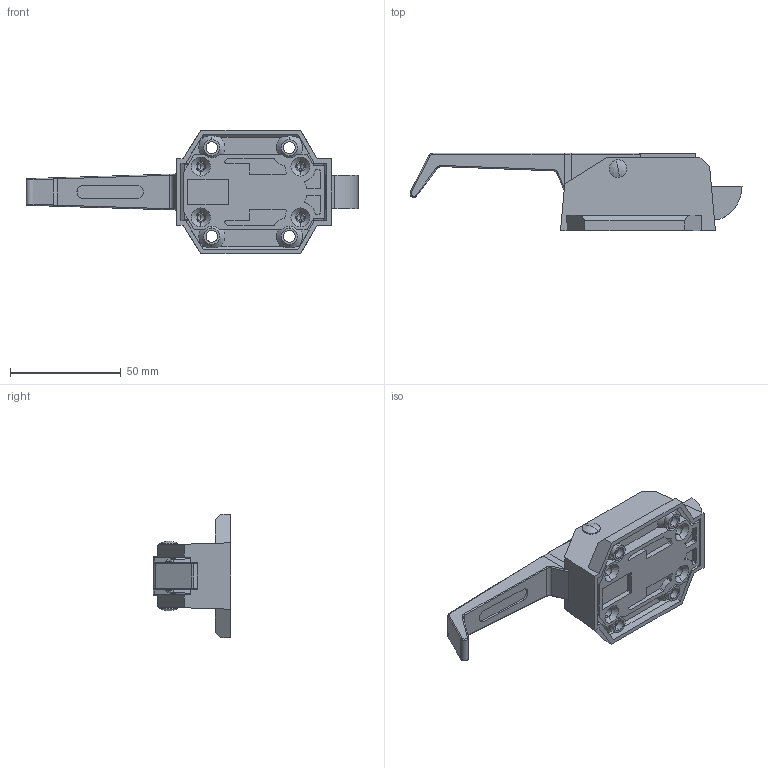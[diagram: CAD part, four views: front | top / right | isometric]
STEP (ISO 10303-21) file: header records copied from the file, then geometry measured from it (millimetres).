
FILE_DESCRIPTION (( 'STEP AP203' ), '1' );
FILE_NAME ('SK1-093-3W.STEP', '2019-05-22T09:04:23', ( 'admin' ), ( 'Microsoft' ), 'SwSTEP 2.0', 'SolidWorks 2018', '' );
FILE_SCHEMA (( 'CONFIG_CONTROL_DESIGN' ));
Length unit declared in the file: millimetre
Products named in the file (7): SK1-093-3W-F4; SK1-093-3W-F5; SK1-093-3W-F6; SK1-093-3W; SK1-093-3W-F1; SK1-093-3W-F2; SK1-093-3W-F3
Assembly tree (6 placements, depth 2):
  SK1-093-3W
    SK1-093-3W-F1
    SK1-093-3W-F2
    SK1-093-3W-F3
    SK1-093-3W-F4
    SK1-093-3W-F5
    SK1-093-3W-F6
Bounding box: 150 x 35 x 56 mm (x, y, z)
Volume: 48384.8 mm3; surface area: 39214.8 mm2
Topology: 6 solids, 6 shells, 425 faces, 1149 edges, 739 vertices
Faces by surface type: plane 210, cylinder 154, cone 38, bspline 15, torus 4, sphere 4
Entity records: 17115 total; most frequent: CARTESIAN_POINT 5657, ORIENTED_EDGE 2282, DIRECTION 2227, EDGE_CURVE 1141, LINE 745, VECTOR 745, AXIS2_PLACEMENT_3D 741, VERTEX_POINT 739
